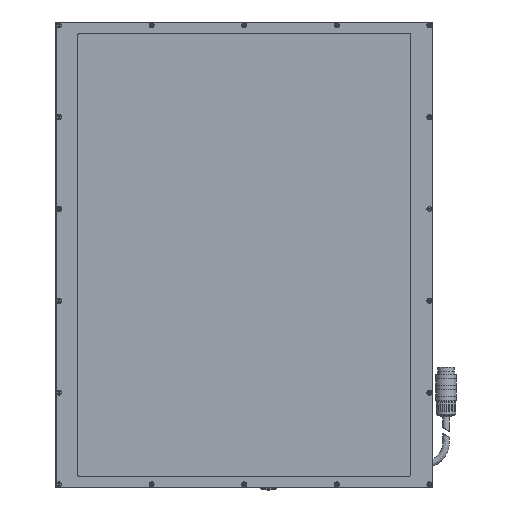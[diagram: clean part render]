
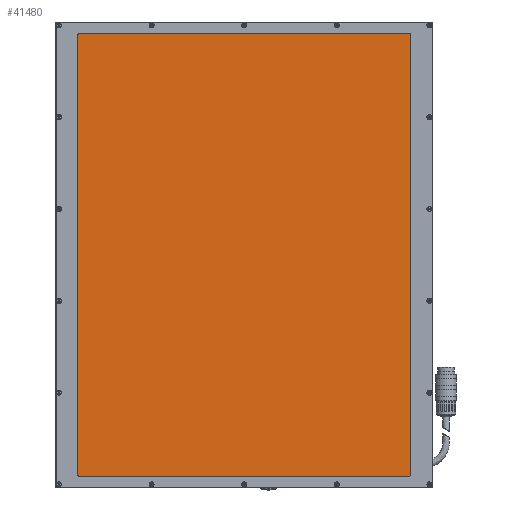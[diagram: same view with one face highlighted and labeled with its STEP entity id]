
A CAD part, top view. The second image highlights one B-rep face of the part: STEP entity #41480.
In plain terms, the highlighted planar face has unit normal (0, 0, 1).
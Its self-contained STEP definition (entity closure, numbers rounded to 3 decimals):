
#2334=LINE('',#68210,#4583);
#2338=LINE('',#68218,#4587);
#2341=LINE('',#68224,#4590);
#2344=LINE('',#68230,#4593);
#4583=VECTOR('',#51393,1000.);
#4587=VECTOR('',#51399,1000.);
#4590=VECTOR('',#51404,1000.);
#4593=VECTOR('',#51409,1000.);
#13801=ORIENTED_EDGE('',*,*,#18300,.T.);
#13802=ORIENTED_EDGE('',*,*,#18303,.T.);
#13803=ORIENTED_EDGE('',*,*,#18297,.T.);
#13804=ORIENTED_EDGE('',*,*,#18304,.T.);
#13805=ORIENTED_EDGE('',*,*,#18294,.T.);
#13806=ORIENTED_EDGE('',*,*,#18305,.T.);
#13807=ORIENTED_EDGE('',*,*,#18290,.T.);
#13808=ORIENTED_EDGE('',*,*,#18302,.T.);
#18290=EDGE_CURVE('',#21224,#21225,#2334,.T.);
#18294=EDGE_CURVE('',#21227,#21226,#2338,.T.);
#18297=EDGE_CURVE('',#21229,#21228,#2341,.T.);
#18300=EDGE_CURVE('',#21231,#21230,#2344,.T.);
#18302=EDGE_CURVE('',#21225,#21231,#22450,.T.);
#18303=EDGE_CURVE('',#21230,#21229,#22451,.T.);
#18304=EDGE_CURVE('',#21228,#21227,#22452,.T.);
#18305=EDGE_CURVE('',#21226,#21224,#22453,.T.);
#21224=VERTEX_POINT('',#68211);
#21225=VERTEX_POINT('',#68212);
#21226=VERTEX_POINT('',#68217);
#21227=VERTEX_POINT('',#68219);
#21228=VERTEX_POINT('',#68223);
#21229=VERTEX_POINT('',#68225);
#21230=VERTEX_POINT('',#68229);
#21231=VERTEX_POINT('',#68231);
#22450=CIRCLE('',#44133,2.);
#22451=CIRCLE('',#44135,2.);
#22452=CIRCLE('',#44137,2.);
#22453=CIRCLE('',#44139,2.);
#24372=EDGE_LOOP('',(#13801,#13802,#13803,#13804,#13805,#13806,#13807,#13808));
#26603=FACE_BOUND('',#24372,.T.);
#27814=PLANE('',#44140);
#41480=ADVANCED_FACE('',(#26603),#27814,.T.);
#44133=AXIS2_PLACEMENT_3D('',#68234,#51413,#51414);
#44135=AXIS2_PLACEMENT_3D('',#68236,#51417,#51418);
#44137=AXIS2_PLACEMENT_3D('',#68238,#51421,#51422);
#44139=AXIS2_PLACEMENT_3D('',#68240,#51425,#51426);
#44140=AXIS2_PLACEMENT_3D('',#68241,#51427,#51428);
#51393=DIRECTION('',(-1.,0.,0.));
#51399=DIRECTION('',(0.,1.,0.));
#51404=DIRECTION('',(1.,0.,0.));
#51409=DIRECTION('',(0.,-1.,0.));
#51413=DIRECTION('',(0.,0.,1.));
#51414=DIRECTION('',(1.,0.,0.));
#51417=DIRECTION('',(0.,0.,1.));
#51418=DIRECTION('',(1.,0.,0.));
#51421=DIRECTION('',(0.,0.,1.));
#51422=DIRECTION('',(1.,0.,0.));
#51425=DIRECTION('',(0.,0.,1.));
#51426=DIRECTION('',(1.,0.,0.));
#51427=DIRECTION('',(0.,0.,1.));
#51428=DIRECTION('',(1.,0.,0.));
#68210=CARTESIAN_POINT('',(150.5,200.5,23.8));
#68211=CARTESIAN_POINT('',(148.5,200.5,23.8));
#68212=CARTESIAN_POINT('',(-148.5,200.5,23.8));
#68217=CARTESIAN_POINT('',(150.5,198.5,23.8));
#68218=CARTESIAN_POINT('',(150.5,-200.5,23.8));
#68219=CARTESIAN_POINT('',(150.5,-198.5,23.8));
#68223=CARTESIAN_POINT('',(148.5,-200.5,23.8));
#68224=CARTESIAN_POINT('',(-150.5,-200.5,23.8));
#68225=CARTESIAN_POINT('',(-148.5,-200.5,23.8));
#68229=CARTESIAN_POINT('',(-150.5,-198.5,23.8));
#68230=CARTESIAN_POINT('',(-150.5,200.5,23.8));
#68231=CARTESIAN_POINT('',(-150.5,198.5,23.8));
#68234=CARTESIAN_POINT('',(-148.5,198.5,23.8));
#68236=CARTESIAN_POINT('',(-148.5,-198.5,23.8));
#68238=CARTESIAN_POINT('',(148.5,-198.5,23.8));
#68240=CARTESIAN_POINT('',(148.5,198.5,23.8));
#68241=CARTESIAN_POINT('',(0.,0.,23.8));
